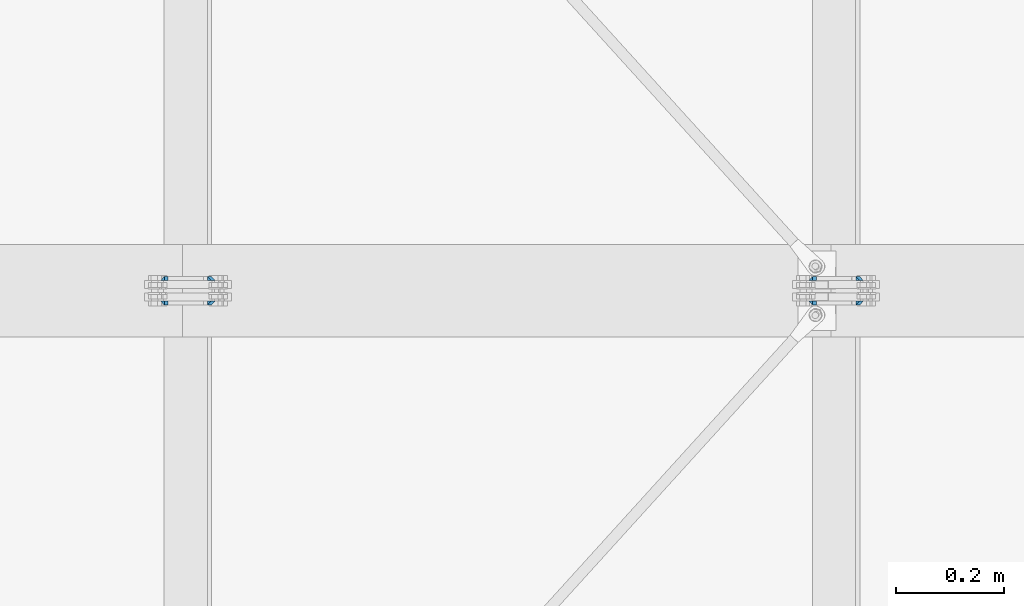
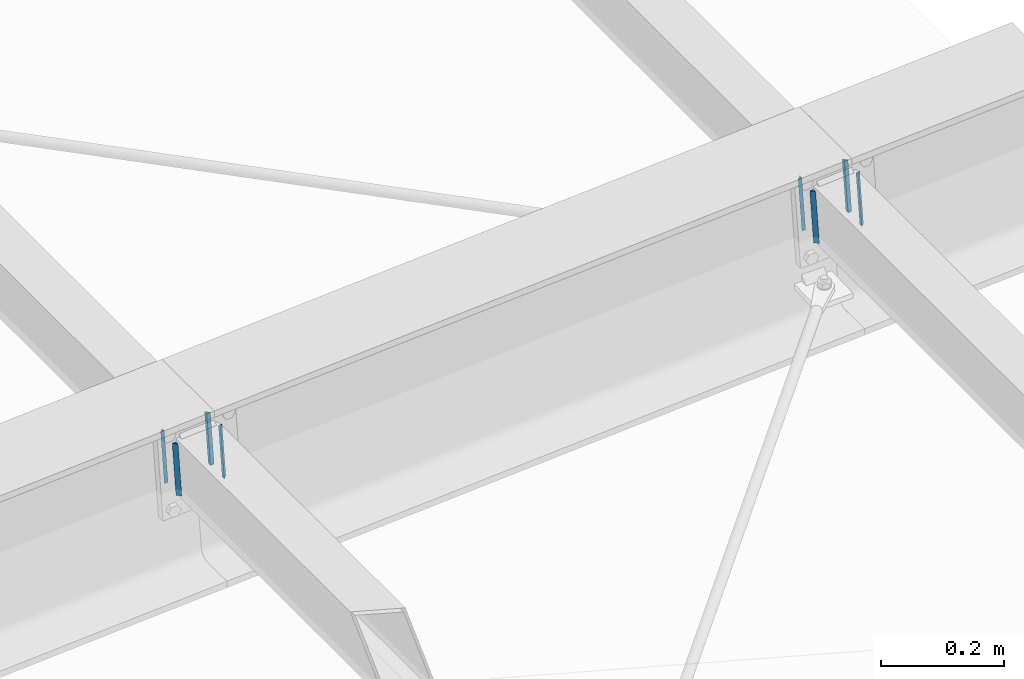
# One storey, part 15 of 72: 16 fasteners.
"""IFC4 building model written with IfcOpenShell, lengths in metres."""

from ifc_helpers import new_model, si_unit, frame, origin_with_axes, place, context, project, spatial, polyline, outline, extrude, type_object, element, save


model = new_model("IFC4")

# Units and contexts
model_context = context("Model", 3, precision=1e-05, world=origin_with_axes())
ifc_project = project(units=[si_unit("LENGTHUNIT", "METRE"), si_unit("AREAUNIT", "SQUARE_METRE"), si_unit("VOLUMEUNIT", "CUBIC_METRE"), si_unit("MASSUNIT", "GRAM", prefix="KILO"), si_unit("TIMEUNIT", "SECOND"), si_unit("PLANEANGLEUNIT", "RADIAN"), si_unit("SOLIDANGLEUNIT", "STERADIAN"), si_unit("THERMODYNAMICTEMPERATUREUNIT", "DEGREE_CELSIUS")], contexts=[model_context])

# Site, building, storey
placement_1 = place(None, origin_with_axes())
site = spatial("IfcSite", under=ifc_project, at=placement_1, Name="Italia", CompositionType="ELEMENT")
building = spatial("IfcBuilding", under=site, at=placement_1, Name="Pensilina", CompositionType="ELEMENT")
storey = spatial("IfcBuildingStorey", under=building, at=placement_1, Name="Storey 0", CompositionType="ELEMENT", Elevation=0.0)

# Fasteners
fastener_type_1 = type_object("IfcFastenerType", Name="Collegamento 0502_0501", PredefinedType="WELD")
placement_2 = place(placement_1, origin_with_axes())
fastener_1_placement = place(placement_2, origin_with_axes())
element("IfcFastener", 1, at=fastener_1_placement, inside=storey, type_object=fastener_type_1, Name="Collegamento 0502_0501", context=model_context, shape_type="SweptSolid", body=[
    extrude(outline(polyline([(0.0, 0.0, 0.0), (-0.00717354, 0.00695801, 0.0), (0.0, 0.00695801, 0.0), (0.0, 0.0, 0.0)])), frame((4.56223, 5.26105, 3.9931), z_axis=(0.067318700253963, 0.0, -0.997731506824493), x_axis=(0.0, 1.0, 0.0)), (0.0, 0.0, 1.0), 0.1061),
])
fastener_type_2 = type_object("IfcFastenerType", Name="Collegamento 0502_0501", PredefinedType="WELD")
fastener_2_placement = place(placement_2, origin_with_axes())
element("IfcFastener", 2, at=fastener_2_placement, inside=storey, type_object=fastener_type_2, Name="Collegamento 0502_0501", context=model_context, shape_type="SweptSolid", body=[
    extrude(outline(polyline([(0.0, 0.0, 0.0), (0.00717354, -0.00695801, 0.0), (0.0, -0.00695801, 0.0), (0.0, 0.0, 0.0)])), frame((4.66298, 5.26105, 3.89356), z_axis=(-0.067318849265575, 0.0, 0.997731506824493), x_axis=(0.0, -1.0, 0.0)), (0.0, 0.0, 1.0), 0.1061),
])
fastener_type_3 = type_object("IfcFastenerType", Name="Collegamento 0502_0501", PredefinedType="WELD")
fastener_3_placement = place(placement_2, origin_with_axes())
element("IfcFastener", 3, at=fastener_3_placement, inside=storey, type_object=fastener_type_3, Name="Collegamento 0502_0501", context=model_context, shape_type="SweptSolid", body=[
    extrude(outline(polyline([(0.0, 0.0, 0.0), (-0.00717354, 0.00695801, 0.0), (0.0, 0.00695801, 0.0), (0.0, 0.0, 0.0)])), frame((4.56223, 5.26105, 3.9931), z_axis=(0.067318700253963, 0.0, -0.997731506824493), x_axis=(0.0, 1.0, 0.0)), (0.0, 0.0, 1.0), 0.1061),
])
fastener_type_4 = type_object("IfcFastenerType", Name="Collegamento 0502_0501", PredefinedType="WELD")
fastener_4_placement = place(placement_2, origin_with_axes())
element("IfcFastener", 4, at=fastener_4_placement, inside=storey, type_object=fastener_type_4, Name="Collegamento 0502_0501", context=model_context, shape_type="SweptSolid", body=[
    extrude(outline(polyline([(0.0, 0.0, 0.0), (0.00717354, -0.00695801, 0.0), (0.0, -0.00695801, 0.0), (0.0, 0.0, 0.0)])), frame((4.66298, 5.26105, 3.89356), z_axis=(-0.067318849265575, 0.0, 0.997731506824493), x_axis=(0.0, -1.0, 0.0)), (0.0, 0.0, 1.0), 0.1061),
])
fastener_type_5 = type_object("IfcFastenerType", Name="Collegamento 0502_0503", PredefinedType="WELD")
fastener_5_placement = place(placement_2, origin_with_axes())
element("IfcFastener", 5, at=fastener_5_placement, inside=storey, type_object=fastener_type_5, Name="Collegamento 0502_0503", context=model_context, shape_type="SweptSolid", body=[
    extrude(outline(polyline([(0.0, 0.0, 0.0), (-0.00717354, 0.00695801, 0.0), (0.0, 0.00695801, 0.0), (0.0, 0.0, 0.0)])), frame((4.56938, 5.29895, 3.88724), z_axis=(-0.067318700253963, 0.0, 0.997731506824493), x_axis=(0.0, -1.0, 0.0)), (0.0, 0.0, 1.0), 0.1061),
])
fastener_type_6 = type_object("IfcFastenerType", Name="Collegamento 0502_0503", PredefinedType="WELD")
fastener_6_placement = place(placement_2, origin_with_axes())
element("IfcFastener", 6, at=fastener_6_placement, inside=storey, type_object=fastener_type_6, Name="Collegamento 0502_0503", context=model_context, shape_type="SweptSolid", body=[
    extrude(outline(polyline([(0.0, 0.0, 0.0), (0.00717354, -0.00695801, 0.0), (0.0, -0.00695801, 0.0), (0.0, 0.0, 0.0)])), frame((4.65584, 5.29895, 3.99942), z_axis=(0.067318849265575, 0.0, -0.997731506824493), x_axis=(0.0, 1.0, 0.0)), (0.0, 0.0, 1.0), 0.1061),
])
fastener_type_7 = type_object("IfcFastenerType", Name="Collegamento 0502_0503", PredefinedType="WELD")
fastener_7_placement = place(placement_2, origin_with_axes())
element("IfcFastener", 7, at=fastener_7_placement, inside=storey, type_object=fastener_type_7, Name="Collegamento 0502_0503", context=model_context, shape_type="SweptSolid", body=[
    extrude(outline(polyline([(0.0, 0.0, 0.0), (-0.00717354, 0.00695801, 0.0), (0.0, 0.00695801, 0.0), (0.0, 0.0, 0.0)])), frame((4.56938, 5.29895, 3.88724), z_axis=(-0.067318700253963, 0.0, 0.997731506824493), x_axis=(0.0, -1.0, 0.0)), (0.0, 0.0, 1.0), 0.1061),
])
fastener_type_8 = type_object("IfcFastenerType", Name="Collegamento 0502_0503", PredefinedType="WELD")
fastener_8_placement = place(placement_2, origin_with_axes())
element("IfcFastener", 8, at=fastener_8_placement, inside=storey, type_object=fastener_type_8, Name="Collegamento 0502_0503", context=model_context, shape_type="SweptSolid", body=[
    extrude(outline(polyline([(0.0, 0.0, 0.0), (0.00717354, -0.00695801, 0.0), (0.0, -0.00695801, 0.0), (0.0, 0.0, 0.0)])), frame((4.65584, 5.29895, 3.99942), z_axis=(0.067318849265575, 0.0, -0.997731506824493), x_axis=(0.0, 1.0, 0.0)), (0.0, 0.0, 1.0), 0.1061),
])
fastener_type_9 = type_object("IfcFastenerType", Name="Collegamento 0602_0601", PredefinedType="WELD")
fastener_9_placement = place(placement_2, origin_with_axes())
element("IfcFastener", 9, at=fastener_9_placement, inside=storey, type_object=fastener_type_9, Name="Collegamento 0602_0601", context=model_context, shape_type="SweptSolid", body=[
    extrude(outline(polyline([(0.0, 0.0, 0.0), (-0.00717354, 0.00695801, 0.0), (0.0, 0.00695801, 0.0), (0.0, 0.0, 0.0)])), frame((5.75944, 5.26105, 4.07535), z_axis=(0.067314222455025, 0.0, -0.997731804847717), x_axis=(0.0, 1.0, 0.0)), (0.0, 0.0, 1.0), 0.1061),
])
fastener_type_10 = type_object("IfcFastenerType", Name="Collegamento 0602_0601", PredefinedType="WELD")
fastener_10_placement = place(placement_2, origin_with_axes())
element("IfcFastener", 10, at=fastener_10_placement, inside=storey, type_object=fastener_type_10, Name="Collegamento 0602_0601", context=model_context, shape_type="SweptSolid", body=[
    extrude(outline(polyline([(0.0, 0.0, 0.0), (0.00717354, -0.00695801, 0.0), (0.0, -0.00695801, 0.0), (0.0, 0.0, 0.0)])), frame((5.86019, 5.26105, 3.97581), z_axis=(-0.067318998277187, 0.0, 0.997731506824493), x_axis=(0.0, -1.0, 0.0)), (0.0, 0.0, 1.0), 0.1061),
])
fastener_type_11 = type_object("IfcFastenerType", Name="Collegamento 0602_0601", PredefinedType="WELD")
fastener_11_placement = place(placement_2, origin_with_axes())
element("IfcFastener", 11, at=fastener_11_placement, inside=storey, type_object=fastener_type_11, Name="Collegamento 0602_0601", context=model_context, shape_type="SweptSolid", body=[
    extrude(outline(polyline([(0.0, 0.0, 0.0), (-0.00717354, 0.00695801, 0.0), (0.0, 0.00695801, 0.0), (0.0, 0.0, 0.0)])), frame((5.75944, 5.26105, 4.07535), z_axis=(0.067314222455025, 0.0, -0.997731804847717), x_axis=(0.0, 1.0, 0.0)), (0.0, 0.0, 1.0), 0.1061),
])
fastener_type_12 = type_object("IfcFastenerType", Name="Collegamento 0602_0601", PredefinedType="WELD")
fastener_12_placement = place(placement_2, origin_with_axes())
element("IfcFastener", 12, at=fastener_12_placement, inside=storey, type_object=fastener_type_12, Name="Collegamento 0602_0601", context=model_context, shape_type="SweptSolid", body=[
    extrude(outline(polyline([(0.0, 0.0, 0.0), (0.00717354, -0.00695801, 0.0), (0.0, -0.00695801, 0.0), (0.0, 0.0, 0.0)])), frame((5.86019, 5.26105, 3.97581), z_axis=(-0.067318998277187, 0.0, 0.997731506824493), x_axis=(0.0, -1.0, 0.0)), (0.0, 0.0, 1.0), 0.1061),
])
fastener_type_13 = type_object("IfcFastenerType", Name="Collegamento 0602_0603", PredefinedType="WELD")
fastener_13_placement = place(placement_2, origin_with_axes())
element("IfcFastener", 13, at=fastener_13_placement, inside=storey, type_object=fastener_type_13, Name="Collegamento 0602_0603", context=model_context, shape_type="SweptSolid", body=[
    extrude(outline(polyline([(0.0, 0.0, 0.0), (-0.00717354, 0.00695801, 0.0), (0.0, 0.00695801, 0.0), (0.0, 0.0, 0.0)])), frame((5.76658, 5.29895, 3.96949), z_axis=(-0.067314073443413, 0.0, 0.997731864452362), x_axis=(0.0, -1.0, 0.0)), (0.0, 0.0, 1.0), 0.106101),
])
fastener_type_14 = type_object("IfcFastenerType", Name="Collegamento 0602_0603", PredefinedType="WELD")
fastener_14_placement = place(placement_2, origin_with_axes())
element("IfcFastener", 14, at=fastener_14_placement, inside=storey, type_object=fastener_type_14, Name="Collegamento 0602_0603", context=model_context, shape_type="SweptSolid", body=[
    extrude(outline(polyline([(0.0, 0.0, 0.0), (0.00717354, -0.00695801, 0.0), (0.0, -0.00695801, 0.0), (0.0, 0.0, 0.0)])), frame((5.85304, 5.29895, 4.08167), z_axis=(0.067318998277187, 0.0, -0.997731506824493), x_axis=(0.0, 1.0, 0.0)), (0.0, 0.0, 1.0), 0.1061),
])
fastener_type_15 = type_object("IfcFastenerType", Name="Collegamento 0602_0603", PredefinedType="WELD")
fastener_15_placement = place(placement_2, origin_with_axes())
element("IfcFastener", 15, at=fastener_15_placement, inside=storey, type_object=fastener_type_15, Name="Collegamento 0602_0603", context=model_context, shape_type="SweptSolid", body=[
    extrude(outline(polyline([(0.0, 0.0, 0.0), (-0.00717354, 0.00695801, 0.0), (0.0, 0.00695801, 0.0), (0.0, 0.0, 0.0)])), frame((5.76658, 5.29895, 3.96949), z_axis=(-0.067314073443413, 0.0, 0.997731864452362), x_axis=(0.0, -1.0, 0.0)), (0.0, 0.0, 1.0), 0.106101),
])
fastener_type_16 = type_object("IfcFastenerType", Name="Collegamento 0602_0603", PredefinedType="WELD")
fastener_16_placement = place(placement_2, origin_with_axes())
element("IfcFastener", 16, at=fastener_16_placement, inside=storey, type_object=fastener_type_16, Name="Collegamento 0602_0603", context=model_context, shape_type="SweptSolid", body=[
    extrude(outline(polyline([(0.0, 0.0, 0.0), (0.00717354, -0.00695801, 0.0), (0.0, -0.00695801, 0.0), (0.0, 0.0, 0.0)])), frame((5.85304, 5.29895, 4.08167), z_axis=(0.067318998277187, 0.0, -0.997731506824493), x_axis=(0.0, 1.0, 0.0)), (0.0, 0.0, 1.0), 0.1061),
])

save(model, "model.ifc")
